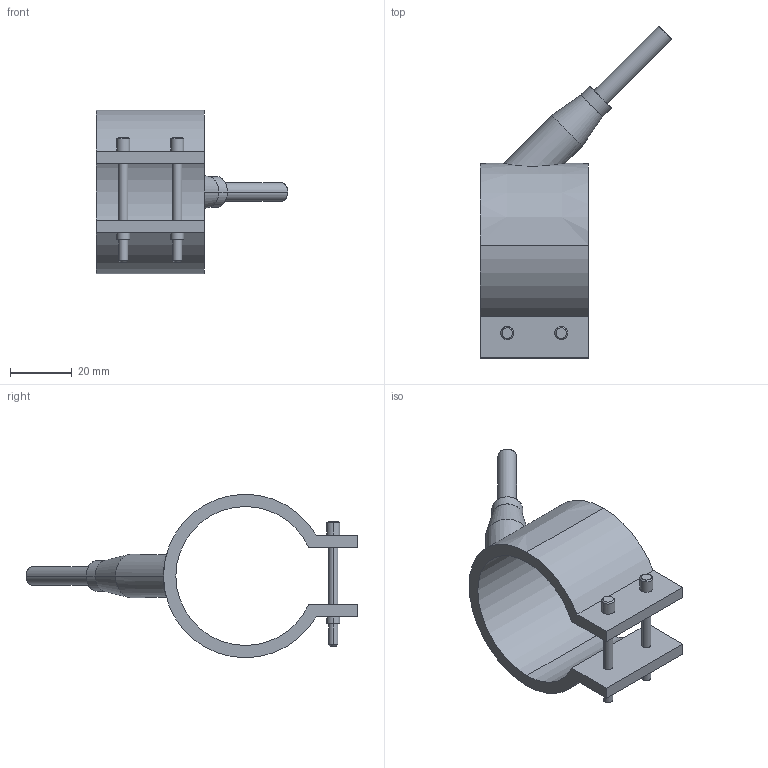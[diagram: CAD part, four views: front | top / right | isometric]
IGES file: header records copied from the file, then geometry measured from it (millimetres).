
Start section: START RECORD GO HERE.
Global section: file name: 29045035.igs; native system: DASSAULT SYSTEMES CATIA V5 R20 - www.3ds.com; preprocessor: CATIA Version 5 Release 20 ; author: Utente; organization: NB04-ASUS; date: 20210327.103532; units: millimetre
Bounding box: 62.05 x 107.55 x 53 mm (x, y, z)
Surface area: 15057.8 mm2 (no closed solid volume)
Topology: 0 solids, 0 shells, 54 faces, 244 edges, 244 vertices
Faces by surface type: revolution 38, plane 16
